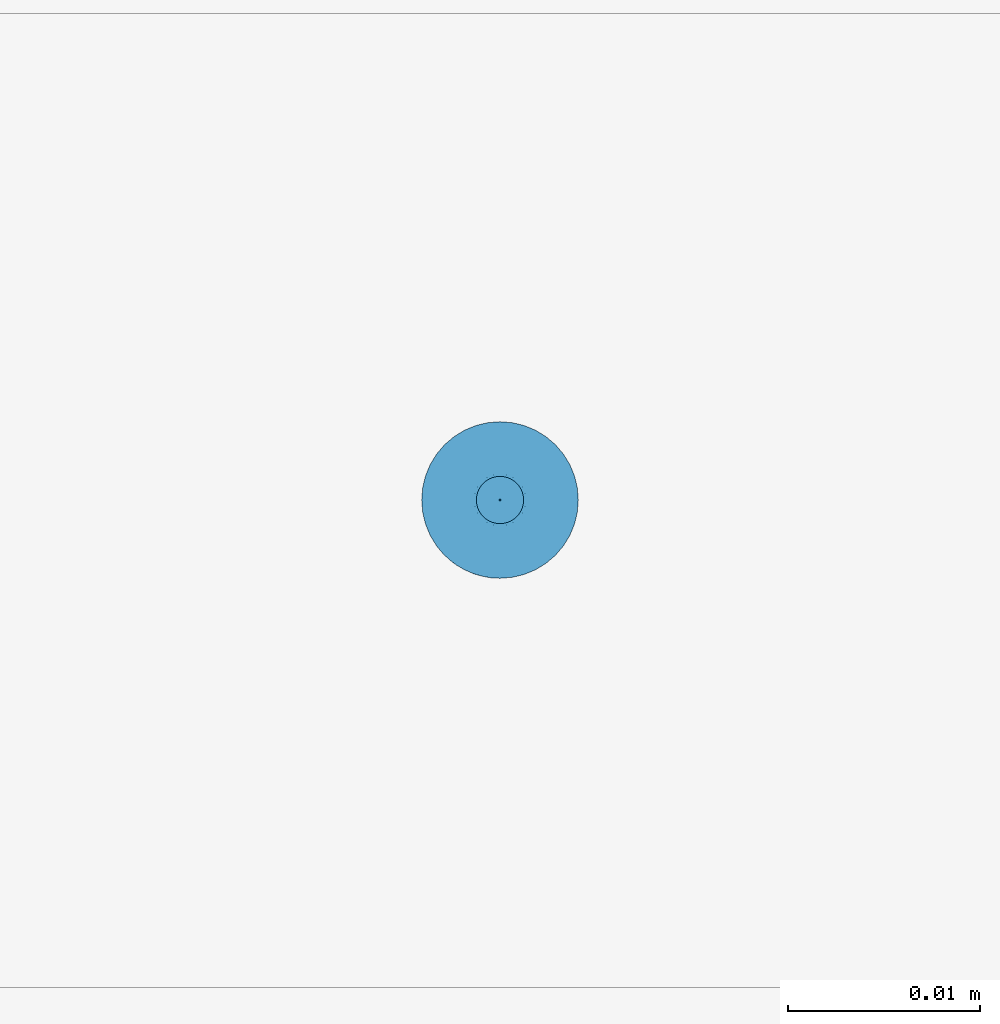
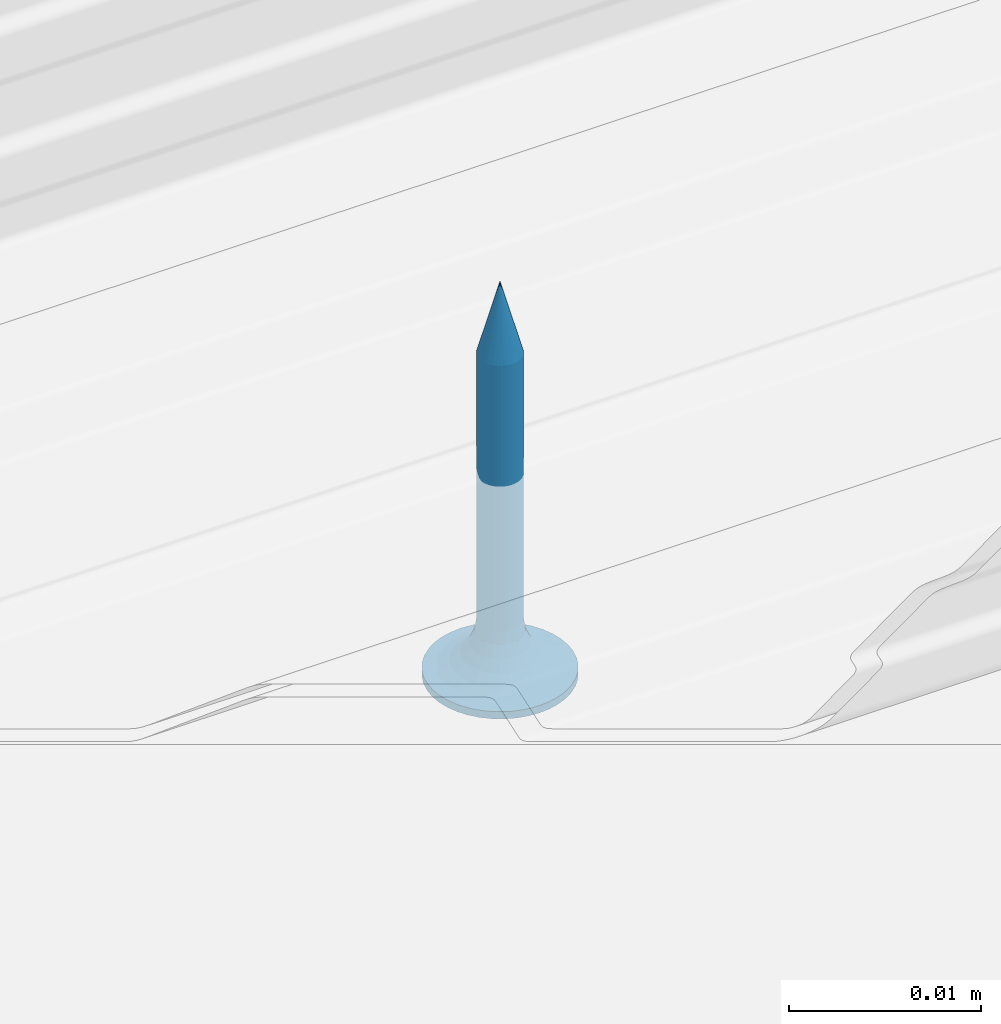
# One storey, part 22 of 34: 1 slab.
"""IFC2X3 building model written with IfcOpenShell, lengths in millimetres."""

from ifc_helpers import new_model, entity, si_unit, converted_unit, direction, frame, origin, origin_with_axes, place, context, project, spatial, faceted_brep, element, save


model = new_model("IFC2X3")

# Units and contexts
model_context = context("Model", 3, precision=1e-05, world=origin(), true_north=direction((0.0, 1.0, 0.0)))
ifc_project = project(units=[si_unit("LENGTHUNIT", "METRE", prefix="MILLI"), si_unit("AREAUNIT", "SQUARE_METRE"), si_unit("VOLUMEUNIT", "CUBIC_METRE"), converted_unit("PLANEANGLEUNIT", "DEGREE", entity("IfcPlaneAngleMeasure", 0.01745), si_unit("PLANEANGLEUNIT", "RADIAN"), dimensions=[0, 0, 0, 0, 0, 0, 0]), si_unit("SOLIDANGLEUNIT", "STERADIAN"), si_unit("MASSUNIT", "GRAM"), si_unit("TIMEUNIT", "SECOND"), si_unit("THERMODYNAMICTEMPERATUREUNIT", "DEGREE_CELSIUS"), si_unit("LUMINOUSINTENSITYUNIT", "LUMEN")], contexts=[model_context])

# Site, building, storey
site_placement = place(None, origin_with_axes())
site = spatial("IfcSite", under=ifc_project, at=site_placement, Name="Default Site", CompositionType="ELEMENT")
building_placement = place(site_placement, origin_with_axes())
building = spatial("IfcBuilding", under=site, at=building_placement, Name="Default Building", CompositionType="ELEMENT")
storey_placement = place(building_placement, origin_with_axes())
storey = spatial("IfcBuildingStorey", under=building, at=storey_placement, Name="Default Building Storey", CompositionType="ELEMENT", Elevation=0.0)

# Slab
slab_placement = place(storey_placement, frame((2984.616074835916, 523.3383773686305, 4371.30616226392), z_axis=(0.0, 1.0, 2.220446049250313e-16), x_axis=(1.0, -1.802054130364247e-31, 8.115730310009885e-16)))
element("IfcSlab", 1, at=slab_placement, inside=storey, Name="Wkręt RIGIPS TN 25", context=model_context, shape_type="Brep", body=[
    faceted_brep([(-136.5890362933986, 3387.475459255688, 554.9298199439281), (-136.4636235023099, 3387.475459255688, 555.0766594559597), (-136.4636235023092, 3370.55807436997, 555.0766594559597), (-136.5890362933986, 3370.55807436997, 554.9298199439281), (-136.9005263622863, 3387.475459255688, 554.7035091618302), (-136.9005263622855, 3370.55807436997, 554.7035091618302), (-137.0789337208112, 3370.55807436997, 554.6296104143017), (-137.078933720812, 3387.475459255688, 554.6296104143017), (-137.2667048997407, 3387.475459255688, 554.5845305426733), (-137.2667048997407, 3370.55807436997, 554.5845305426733), (-137.4592163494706, 3370.55807436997, 554.5693795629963), (-137.4592163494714, 3387.475459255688, 554.5693795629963), (-136.4636235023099, 3387.475459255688, 556.5233405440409), (-136.5890362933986, 3387.475459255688, 556.6701800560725), (-136.5890362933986, 3370.55807436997, 556.6701800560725), (-136.4636235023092, 3370.55807436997, 556.5233405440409), (-138.4548091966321, 3370.55807436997, 556.5233405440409), (-138.3293964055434, 3370.55807436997, 556.6701800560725), (-138.3293964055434, 3387.475459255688, 556.6701800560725), (-138.4548091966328, 3387.475459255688, 556.5233405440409), (-136.7358758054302, 3370.55807436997, 554.8044071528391), (-136.7358758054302, 3387.475459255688, 554.8044071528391), (-138.1825568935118, 3387.475459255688, 556.7955928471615), (-138.1825568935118, 3370.55807436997, 556.7955928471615), (-138.0179063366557, 3370.55807436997, 556.8964908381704), (-138.0179063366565, 3387.475459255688, 556.8964908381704), (-136.3627255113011, 3387.475459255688, 556.3586899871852), (-136.3627255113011, 3370.55807436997, 556.3586899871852), (-136.7358758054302, 3387.475459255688, 556.7955928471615), (-136.7358758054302, 3370.55807436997, 556.7955928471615), (-137.6517277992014, 3387.475459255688, 554.5845305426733), (-137.6517277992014, 3370.55807436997, 554.5845305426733), (-137.83949897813, 3370.55807436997, 554.6296104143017), (-137.8394989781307, 3387.475459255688, 554.6296104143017), (-136.3627255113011, 3387.475459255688, 555.241310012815), (-136.3627255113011, 3370.55807436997, 555.241310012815), (-138.0179063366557, 3370.55807436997, 554.7035091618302), (-138.0179063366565, 3387.475459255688, 554.7035091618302), (-138.6746858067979, 3370.55807436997, 555.6074885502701), (-138.6898367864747, 3370.55807436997, 555.8000000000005), (-138.6898367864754, 3387.475459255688, 555.8000000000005), (-138.6746858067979, 3387.475459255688, 555.6074885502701), (-136.2285959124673, 3387.475459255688, 555.8000000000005), (-136.2437468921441, 3387.475459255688, 555.9925114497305), (-136.2437468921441, 3370.55807436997, 555.9925114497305), (-136.2285959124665, 3370.55807436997, 555.8000000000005), (-138.3293964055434, 3370.55807436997, 554.9298199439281), (-138.4548091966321, 3370.55807436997, 555.0766594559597), (-138.4548091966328, 3387.475459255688, 555.0766594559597), (-138.3293964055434, 3387.475459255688, 554.9298199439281), (-137.83949897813, 3370.55807436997, 556.9703895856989), (-137.8394989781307, 3387.475459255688, 556.9703895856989), (-138.1825568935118, 3370.55807436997, 554.8044071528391), (-138.1825568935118, 3387.475459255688, 554.8044071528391), (-138.5557071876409, 3370.55807436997, 555.241310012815), (-138.6296059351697, 3370.55807436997, 555.4197173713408), (-138.6296059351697, 3387.475459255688, 555.4197173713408), (-138.5557071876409, 3387.475459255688, 555.241310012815), (-136.2888267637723, 3387.475459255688, 555.4197173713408), (-136.2437468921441, 3387.475459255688, 555.6074885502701), (-136.2437468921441, 3370.55807436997, 555.6074885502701), (-136.2888267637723, 3370.55807436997, 555.4197173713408), (-136.2888267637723, 3387.475459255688, 556.1802826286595), (-136.2888267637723, 3370.55807436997, 556.1802826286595), (-137.4592163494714, 3387.475459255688, 557.0306204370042), (-137.4592163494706, 3370.55807436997, 557.0306204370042), (-137.2667048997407, 3370.55807436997, 557.0154694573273), (-137.2667048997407, 3387.475459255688, 557.0154694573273), (-137.0789337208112, 3370.55807436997, 556.9703895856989), (-137.078933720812, 3387.475459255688, 556.9703895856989), (-137.6517277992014, 3387.475459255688, 557.0154694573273), (-137.6517277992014, 3370.55807436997, 557.0154694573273), (-136.9005263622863, 3387.475459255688, 556.8964908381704), (-136.9005263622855, 3370.55807436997, 556.8964908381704), (-138.6296059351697, 3370.55807436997, 556.1802826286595), (-138.5557071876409, 3370.55807436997, 556.3586899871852), (-138.5557071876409, 3387.475459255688, 556.3586899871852), (-138.6296059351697, 3387.475459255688, 556.1802826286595), (-138.6746858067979, 3370.55807436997, 555.9925114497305), (-138.6746858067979, 3387.475459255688, 555.9925114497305), (-141.5377463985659, 3390.556721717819, 555.8000000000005), (-141.5377463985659, 3391.020944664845, 555.8000000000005), (-141.4875329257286, 3391.020944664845, 555.1619773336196), (-141.4875329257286, 3390.556721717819, 555.1619773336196), (-141.338128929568, 3391.020944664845, 554.539664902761), (-141.338128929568, 3390.556721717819, 554.539664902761), (-141.0932132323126, 3391.020944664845, 553.948386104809), (-141.0932132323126, 3390.556721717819, 553.948386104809), (-140.7588164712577, 3391.020944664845, 553.4027001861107), (-140.7588164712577, 3390.556721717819, 553.4027001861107), (-140.3431726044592, 3391.020944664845, 552.9160437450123), (-140.4541727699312, 3390.556721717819, 553.0314907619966), (-140.1080097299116, 3390.556721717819, 552.6986614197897), (-139.8565161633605, 3391.020944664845, 552.5003998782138), (-139.7251262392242, 3390.556721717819, 552.4088262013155), (-139.3108302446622, 3391.020944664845, 552.1660031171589), (-139.3108302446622, 3390.556721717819, 552.1660031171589), (-138.8708651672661, 3390.556721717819, 551.9735584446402), (-138.7195514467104, 3391.020944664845, 551.9210874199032), (-138.4113302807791, 3390.556721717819, 551.8341600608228), (-137.9385961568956, 3390.556721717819, 551.7497404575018), (-138.0972390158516, 3391.020944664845, 551.7716834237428), (-137.4592163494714, 3391.020944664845, 551.7214699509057), (-137.4592163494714, 3390.556721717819, 551.7214699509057), (-136.8211936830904, 3391.020944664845, 551.7716834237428), (-136.8211936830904, 3390.556721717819, 551.7716834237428), (-136.1988812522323, 3391.020944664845, 551.9210874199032), (-136.1988812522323, 3390.556721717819, 551.9210874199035), (-135.6076024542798, 3391.020944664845, 552.1660031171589), (-135.6076024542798, 3390.556721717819, 552.1660031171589), (-135.0619165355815, 3391.020944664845, 552.5003998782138), (-135.0619165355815, 3390.556721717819, 552.5003998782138), (-134.5752600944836, 3391.020944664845, 552.9160437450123), (-134.5752600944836, 3390.556721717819, 552.9160437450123), (-134.1596162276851, 3391.020944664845, 553.4027001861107), (-134.1596162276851, 3390.556721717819, 553.4027001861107), (-133.8252194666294, 3391.020944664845, 553.948386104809), (-133.8252194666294, 3390.556721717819, 553.948386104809), (-133.580303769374, 3391.020944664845, 554.539664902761), (-133.580303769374, 3390.556721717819, 554.539664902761), (-133.4308997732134, 3391.020944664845, 556.438022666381), (-133.4308997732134, 3390.556721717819, 556.438022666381), (-133.3806863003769, 3390.556721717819, 555.8000000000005), (-133.3806863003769, 3391.020944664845, 555.8000000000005), (-133.4308997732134, 3390.556721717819, 555.1619773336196), (-133.4308997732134, 3391.020944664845, 555.1619773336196), (-133.580303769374, 3391.020944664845, 557.0603350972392), (-133.580303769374, 3390.556721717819, 557.0603350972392), (-133.8252194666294, 3391.020944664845, 557.6516138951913), (-133.8252194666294, 3390.556721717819, 557.6516138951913), (-134.1596162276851, 3391.020944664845, 558.1972998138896), (-134.1596162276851, 3390.556721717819, 558.1972998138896), (-134.5752600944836, 3391.020944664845, 558.683956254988), (-134.5752600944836, 3390.556721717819, 558.683956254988), (-135.0619165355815, 3391.020944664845, 559.0996001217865), (-135.0619165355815, 3390.556721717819, 559.0996001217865), (-135.6076024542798, 3391.020944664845, 559.4339968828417), (-135.6076024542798, 3390.556721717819, 559.4339968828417), (-136.1988812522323, 3391.020944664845, 559.6789125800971), (-136.1988812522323, 3390.556721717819, 559.6789125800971), (-136.8211936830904, 3391.020944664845, 559.8283165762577), (-136.8211936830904, 3390.556721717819, 559.8283165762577), (-137.4592163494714, 3391.020944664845, 559.8785300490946), (-137.4592163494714, 3390.556721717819, 559.8785300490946), (-138.0972390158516, 3391.020944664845, 559.8283165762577), (-138.0972390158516, 3390.556721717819, 559.8283165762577), (-138.7195514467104, 3391.020944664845, 559.6789125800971), (-138.7195514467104, 3390.556721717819, 559.6789125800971), (-139.3108302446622, 3391.020944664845, 559.4339968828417), (-139.3108302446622, 3390.556721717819, 559.4339968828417), (-139.8565161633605, 3391.020944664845, 559.0996001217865), (-139.8565161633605, 3390.556721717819, 559.0996001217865), (-140.3431726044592, 3391.020944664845, 558.683956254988), (-140.3431726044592, 3390.556721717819, 558.683956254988), (-140.7588164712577, 3391.020944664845, 558.1972998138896), (-140.7588164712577, 3390.556721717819, 558.1972998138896), (-141.0932132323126, 3391.020944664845, 557.6516138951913), (-141.0932132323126, 3390.556721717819, 557.6516138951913), (-141.338128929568, 3391.020944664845, 557.0603350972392), (-141.338128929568, 3390.556721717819, 557.0603350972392), (-141.4875329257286, 3391.020944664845, 556.438022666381), (-141.4875329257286, 3390.556721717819, 556.438022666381), (-137.8060615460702, 3388.229732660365, 554.5055560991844), (-137.4592163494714, 3388.229732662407, 554.4598930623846), (-138.1292698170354, 3388.229732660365, 554.6394333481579), (-138.4068150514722, 3388.229732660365, 554.8524012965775), (-138.6197830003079, 3388.229732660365, 555.1299465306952), (-138.7536602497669, 3388.229732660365, 555.4531548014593), (-138.7993232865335, 3388.229732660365, 555.7999999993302), (-138.7536602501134, 3388.229732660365, 556.1468451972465), (-138.6197830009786, 3388.229732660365, 556.4700534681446), (-138.4068150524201, 3388.229732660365, 556.7475987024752), (-138.1292698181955, 3388.229732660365, 556.9605666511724), (-137.8060615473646, 3388.229732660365, 557.0944439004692), (-137.4592163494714, 3388.229732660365, 557.1401069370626), (-137.1123711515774, 3388.229732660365, 557.0944439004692), (-136.7891628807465, 3388.229732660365, 556.9605666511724), (-136.5116176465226, 3388.229732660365, 556.7475987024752), (-136.2986496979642, 3388.229732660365, 556.4700534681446), (-136.1647724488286, 3388.229732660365, 556.1468451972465), (-136.1191094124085, 3388.229732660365, 555.7999999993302), (-136.1647724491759, 3388.229732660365, 555.4531548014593), (-136.2986496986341, 3388.229732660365, 555.1299465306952), (-136.5116176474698, 3388.229732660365, 554.8524012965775), (-136.7891628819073, 3388.229732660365, 554.6394333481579), (-137.1123711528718, 3388.229732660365, 554.5055560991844), (-137.4592163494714, 3388.936142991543, 554.1737111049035), (-137.8801308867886, 3388.936142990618, 554.2291255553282), (-138.2723607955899, 3388.936142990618, 554.39159250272), (-138.6091762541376, 3388.936142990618, 554.6500400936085), (-138.8676238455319, 3388.936142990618, 554.9868555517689), (-139.0300907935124, 3388.936142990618, 555.3790854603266), (-139.0855052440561, 3388.936142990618, 555.7999999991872), (-139.0300907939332, 3388.936142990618, 556.2209145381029), (-138.8676238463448, 3388.936142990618, 556.6131444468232), (-138.6091762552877, 3388.936142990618, 556.949959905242), (-138.2723607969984, 3388.936142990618, 557.2084074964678), (-137.8801308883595, 3388.936142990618, 557.3708744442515), (-137.4592163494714, 3388.936142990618, 557.4262888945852), (-137.0383018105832, 3388.936142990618, 557.3708744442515), (-136.6460719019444, 3388.936142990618, 557.2084074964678), (-136.3092564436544, 3388.936142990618, 556.949959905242), (-136.0508088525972, 3388.936142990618, 556.6131444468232), (-135.8883419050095, 3388.936142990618, 556.2209145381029), (-135.8329274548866, 3388.936142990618, 555.7999999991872), (-135.8883419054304, 3388.936142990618, 555.3790854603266), (-136.0508088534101, 3388.936142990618, 554.9868555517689), (-136.3092564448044, 3388.936142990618, 554.6500400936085), (-136.6460719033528, 3388.936142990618, 554.39159250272), (-137.0383018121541, 3388.936142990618, 554.2291255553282), (-137.4592163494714, 3389.553938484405, 553.727343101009), (-137.9956594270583, 3389.553938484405, 553.7979671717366), (-138.4955447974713, 3389.553938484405, 554.0050264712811), (-138.9248060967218, 3389.553938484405, 554.3344102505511), (-139.2541898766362, 3389.553938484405, 554.7636715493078), (-139.46124917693, 3389.553938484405, 555.2635569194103), (-139.5318732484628, 3389.553938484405, 555.7999999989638), (-139.4612491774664, 3389.553938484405, 556.3364430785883), (-139.2541898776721, 3389.553938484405, 556.8363284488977), (-138.9248060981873, 3389.553938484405, 557.2655897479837), (-138.495544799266, 3389.553938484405, 557.5949735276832), (-137.9956594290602, 3389.553938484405, 557.8020328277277), (-137.4592163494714, 3389.553938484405, 557.8726568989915), (-136.9227732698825, 3389.553938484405, 557.8020328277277), (-136.422887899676, 3389.553938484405, 557.5949735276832), (-135.9936266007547, 3389.553938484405, 557.2655897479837), (-135.6642428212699, 3389.553938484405, 556.8363284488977), (-135.4571835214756, 3389.553938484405, 556.3364430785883), (-135.3865594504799, 3389.553938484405, 555.7999999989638), (-135.457183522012, 3389.553938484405, 555.2635569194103), (-135.6642428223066, 3389.553938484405, 554.7636715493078), (-135.9936266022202, 3389.553938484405, 554.3344102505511), (-136.4228879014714, 3389.553938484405, 554.0050264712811), (-136.9227732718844, 3389.553938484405, 553.7979671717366), (-137.4592163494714, 3390.04747944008, 553.1465393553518), (-138.1459824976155, 3390.047479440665, 553.2369538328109), (-138.7859466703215, 3390.047479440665, 553.5020356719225), (-139.3354963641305, 3390.047479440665, 553.9237199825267), (-139.757180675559, 3390.047479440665, 554.4732696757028), (-140.0222625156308, 3390.047479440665, 555.1132338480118), (-140.1126769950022, 3390.047479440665, 555.7999999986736), (-140.0222625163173, 3390.047479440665, 556.4867661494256), (-139.7571806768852, 3390.047479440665, 557.1267303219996), (-139.3354963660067, 3390.047479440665, 557.6762800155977), (-138.7859466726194, 3390.047479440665, 558.0979643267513), (-138.1459825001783, 3390.047479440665, 558.3630461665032), (-137.4592163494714, 3390.047479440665, 558.4534606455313), (-136.7724501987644, 3390.047479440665, 558.3630461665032), (-136.1324860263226, 3390.047479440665, 558.0979643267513), (-135.5829363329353, 3390.047479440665, 557.6762800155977), (-135.1612520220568, 3390.047479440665, 557.1267303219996), (-134.8961701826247, 3390.047479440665, 556.4867661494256), (-134.8057557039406, 3390.047479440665, 555.7999999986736), (-134.8961701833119, 3390.047479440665, 555.1132338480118), (-135.1612520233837, 3390.047479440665, 554.4732696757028), (-135.5829363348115, 3390.047479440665, 553.9237199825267), (-136.1324860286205, 3390.047479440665, 553.5020356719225), (-136.7724502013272, 3390.047479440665, 553.2369538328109), (-137.4592163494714, 3390.388294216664, 552.4648055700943), (-138.3224281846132, 3390.388294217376, 552.5784495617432), (-139.1268135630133, 3390.388294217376, 552.9116368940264), (-139.8175549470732, 3390.388294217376, 553.4416613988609), (-140.3475794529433, 3390.388294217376, 554.1324027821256), (-140.6807667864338, 3390.388294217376, 554.9367881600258), (-140.7944107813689, 3390.388294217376, 555.7999999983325), (-140.6807667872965, 3390.388294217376, 556.6632118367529), (-140.3475794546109, 3390.388294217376, 557.4675972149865), (-139.8175549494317, 3390.388294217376, 558.1583385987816), (-139.1268135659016, 3390.388294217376, 558.6883631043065), (-138.3224281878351, 3390.388294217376, 559.0215504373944), (-137.4592163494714, 3390.388294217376, 559.1351944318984), (-136.5960045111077, 3390.388294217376, 559.0215504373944), (-135.7916191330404, 3390.388294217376, 558.6883631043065), (-135.1008777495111, 3390.388294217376, 558.1583385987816), (-134.5708532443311, 3390.388294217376, 557.4675972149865), (-134.2376659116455, 3390.388294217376, 556.6632118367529), (-134.1240219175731, 3390.388294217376, 555.7999999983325), (-134.2376659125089, 3390.388294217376, 554.9367881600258), (-134.5708532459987, 3390.388294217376, 554.1324027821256), (-135.1008777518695, 3390.388294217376, 553.4416613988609), (-135.7916191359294, 3390.388294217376, 552.9116368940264), (-136.5960045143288, 3390.388294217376, 552.5784495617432), (-137.4592163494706, 3366.021033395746, 555.8000000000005), (-139.9592163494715, 3391.020944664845, 556.3000000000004), (-137.9592163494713, 3391.020944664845, 556.3000000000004), (-139.9592163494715, 3391.020944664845, 555.3000000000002), (-137.9592163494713, 3391.020944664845, 555.3000000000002), (-137.9592163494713, 3391.020944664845, 553.3000000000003), (-136.9592163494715, 3391.020944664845, 553.3000000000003), (-136.9592163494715, 3391.020944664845, 555.3000000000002), (-134.9592163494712, 3391.020944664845, 555.3000000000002), (-134.9592163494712, 3391.020944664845, 556.3000000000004), (-136.9592163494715, 3391.020944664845, 556.3000000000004), (-136.9592163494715, 3391.020944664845, 558.3000000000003), (-137.9592163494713, 3391.020944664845, 558.3000000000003), (-136.9592163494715, 3390.128974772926, 556.3000000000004), (-134.9592163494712, 3390.128974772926, 556.3000000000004), (-134.9592163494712, 3390.128974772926, 555.3000000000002), (-136.9592163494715, 3390.128974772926, 555.3000000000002), (-136.9592163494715, 3390.128974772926, 553.3000000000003), (-137.9592163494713, 3390.128974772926, 553.3000000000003), (-137.9592163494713, 3390.128974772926, 555.3000000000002), (-139.9592163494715, 3390.128974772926, 555.3000000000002), (-139.9592163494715, 3390.128974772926, 556.3000000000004), (-137.9592163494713, 3390.128974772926, 556.3000000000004), (-137.9592163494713, 3390.128974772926, 558.3000000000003), (-136.9592163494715, 3390.128974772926, 558.3000000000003)], [[[0, 1, 2, 3]], [[4, 5, 6, 7]], [[8, 9, 10, 11]], [[12, 13, 14, 15]], [[16, 17, 18, 19]], [[0, 3, 20, 21]], [[22, 23, 24, 25]], [[26, 12, 15, 27]], [[28, 29, 14, 13]], [[30, 31, 32, 33]], [[1, 34, 35, 2]], [[18, 17, 23, 22]], [[7, 6, 9, 8]], [[33, 32, 36, 37]], [[38, 39, 40, 41]], [[42, 43, 44, 45]], [[46, 47, 48, 49]], [[25, 24, 50, 51]], [[37, 36, 52, 53]], [[54, 55, 56, 57]], [[53, 52, 46, 49]], [[47, 54, 57, 48]], [[58, 59, 60, 61]], [[59, 42, 45, 60]], [[43, 62, 63, 44]], [[64, 65, 66, 67]], [[67, 66, 68, 69]], [[55, 38, 41, 56]], [[70, 71, 65, 64]], [[72, 73, 29, 28]], [[74, 75, 76, 77]], [[69, 68, 73, 72]], [[39, 78, 79, 40]], [[75, 16, 19, 76]], [[62, 26, 27, 63]], [[11, 10, 31, 30]], [[21, 20, 5, 4]], [[34, 58, 61, 35]], [[51, 50, 71, 70]], [[78, 74, 77, 79]], [[80, 81, 82, 83]], [[84, 85, 83, 82]], [[86, 87, 85, 84]], [[87, 86, 88, 89]], [[88, 90, 89]], [[90, 91, 89]], [[92, 91, 93]], [[91, 90, 93]], [[93, 94, 92]], [[93, 95, 94]], [[95, 96, 94]], [[97, 96, 98]], [[96, 95, 98]], [[98, 99, 97]], [[100, 99, 101]], [[99, 98, 101]], [[101, 102, 100]], [[102, 103, 100]], [[103, 102, 104, 105]], [[106, 107, 105, 104]], [[108, 109, 107, 106]], [[109, 108, 110, 111]], [[112, 113, 111, 110]], [[113, 112, 114, 115]], [[116, 117, 115, 114]], [[118, 119, 117, 116]], [[120, 121, 122, 123]], [[123, 122, 124, 125]], [[119, 118, 125, 124]], [[126, 127, 121, 120]], [[128, 129, 127, 126]], [[129, 128, 130, 131]], [[132, 133, 131, 130]], [[133, 132, 134, 135]], [[136, 137, 135, 134]], [[138, 139, 137, 136]], [[139, 138, 140, 141]], [[142, 143, 141, 140]], [[143, 142, 144, 145]], [[146, 147, 145, 144]], [[148, 149, 147, 146]], [[149, 148, 150, 151]], [[152, 153, 151, 150]], [[153, 152, 154, 155]], [[156, 157, 155, 154]], [[158, 159, 157, 156]], [[159, 158, 160, 161]], [[81, 80, 161, 160]], [[162, 11, 30]], [[162, 163, 11]], [[30, 33, 162]], [[162, 33, 164]], [[37, 164, 33]], [[164, 37, 53]], [[53, 165, 164]], [[53, 49, 165]], [[166, 49, 48]], [[166, 165, 49]], [[48, 57, 166]], [[166, 57, 167]], [[56, 167, 57]], [[167, 56, 41]], [[41, 168, 167]], [[41, 40, 168]], [[169, 40, 79]], [[169, 168, 40]], [[79, 77, 169]], [[169, 77, 170]], [[76, 170, 77]], [[170, 76, 19]], [[19, 171, 170]], [[19, 18, 171]], [[172, 18, 22]], [[172, 171, 18]], [[22, 25, 172]], [[172, 25, 173]], [[51, 173, 25]], [[173, 51, 70]], [[70, 174, 173]], [[70, 64, 174]], [[175, 64, 67]], [[175, 174, 64]], [[67, 69, 175]], [[175, 69, 176]], [[72, 176, 69]], [[176, 72, 28]], [[28, 177, 176]], [[28, 13, 177]], [[178, 13, 12]], [[178, 177, 13]], [[12, 26, 178]], [[178, 26, 179]], [[62, 179, 26]], [[179, 62, 43]], [[43, 180, 179]], [[43, 42, 180]], [[181, 42, 59]], [[181, 180, 42]], [[59, 58, 181]], [[181, 58, 182]], [[34, 182, 58]], [[182, 34, 1]], [[1, 183, 182]], [[1, 0, 183]], [[184, 0, 21]], [[184, 183, 0]], [[21, 4, 184]], [[184, 4, 185]], [[7, 185, 4]], [[185, 7, 8]], [[8, 163, 185]], [[8, 11, 163]], [[186, 163, 187]], [[162, 187, 163]], [[164, 188, 187, 162]], [[165, 189, 188, 164]], [[166, 190, 189, 165]], [[167, 191, 190, 166]], [[168, 192, 191, 167]], [[169, 193, 192, 168]], [[170, 194, 193, 169]], [[171, 195, 194, 170]], [[172, 196, 195, 171]], [[173, 197, 196, 172]], [[174, 198, 197, 173]], [[175, 199, 198, 174]], [[176, 200, 199, 175]], [[177, 201, 200, 176]], [[178, 202, 201, 177]], [[179, 203, 202, 178]], [[180, 204, 203, 179]], [[181, 205, 204, 180]], [[182, 206, 205, 181]], [[183, 207, 206, 182]], [[184, 208, 207, 183]], [[185, 209, 208, 184]], [[185, 163, 209]], [[186, 209, 163]], [[210, 186, 211]], [[187, 211, 186]], [[188, 212, 211, 187]], [[189, 213, 212, 188]], [[190, 214, 213, 189]], [[191, 215, 214, 190]], [[192, 216, 215, 191]], [[193, 217, 216, 192]], [[194, 218, 217, 193]], [[195, 219, 218, 194]], [[196, 220, 219, 195]], [[197, 221, 220, 196]], [[198, 222, 221, 197]], [[199, 223, 222, 198]], [[200, 224, 223, 199]], [[201, 225, 224, 200]], [[202, 226, 225, 201]], [[203, 227, 226, 202]], [[204, 228, 227, 203]], [[205, 229, 228, 204]], [[206, 230, 229, 205]], [[207, 231, 230, 206]], [[208, 232, 231, 207]], [[209, 233, 232, 208]], [[209, 186, 233]], [[210, 233, 186]], [[234, 210, 235]], [[211, 235, 210]], [[212, 236, 235, 211]], [[213, 237, 236, 212]], [[214, 238, 237, 213]], [[215, 239, 238, 214]], [[216, 240, 239, 215]], [[217, 241, 240, 216]], [[218, 242, 241, 217]], [[219, 243, 242, 218]], [[220, 244, 243, 219]], [[221, 245, 244, 220]], [[222, 246, 245, 221]], [[223, 247, 246, 222]], [[224, 248, 247, 223]], [[225, 249, 248, 224]], [[226, 250, 249, 225]], [[227, 251, 250, 226]], [[228, 252, 251, 227]], [[229, 253, 252, 228]], [[230, 254, 253, 229]], [[231, 255, 254, 230]], [[232, 256, 255, 231]], [[233, 257, 256, 232]], [[233, 210, 257]], [[234, 257, 210]], [[258, 99, 100]], [[258, 259, 99]], [[100, 103, 258]], [[258, 234, 259]], [[235, 259, 234]], [[259, 96, 97]], [[259, 260, 96]], [[97, 99, 259]], [[236, 260, 259, 235]], [[261, 91, 92]], [[260, 92, 94]], [[260, 261, 92]], [[94, 96, 260]], [[237, 261, 260, 236]], [[262, 87, 89]], [[89, 261, 262]], [[89, 91, 261]], [[238, 262, 261, 237]], [[85, 87, 263]], [[262, 263, 87]], [[239, 263, 262, 238]], [[263, 80, 83]], [[263, 264, 80]], [[83, 85, 263]], [[240, 264, 263, 239]], [[265, 159, 161]], [[161, 264, 265]], [[161, 80, 264]], [[241, 265, 264, 240]], [[265, 266, 157, 159]], [[242, 266, 265, 241]], [[266, 153, 155]], [[266, 267, 153]], [[155, 157, 266]], [[243, 267, 266, 242]], [[268, 149, 151]], [[151, 267, 268]], [[151, 153, 267]], [[244, 268, 267, 243]], [[268, 269, 147, 149]], [[245, 269, 268, 244]], [[269, 143, 145]], [[269, 270, 143]], [[145, 147, 269]], [[246, 270, 269, 245]], [[271, 139, 141]], [[141, 270, 271]], [[141, 143, 270]], [[247, 271, 270, 246]], [[271, 272, 137, 139]], [[248, 272, 271, 247]], [[272, 133, 135]], [[272, 273, 133]], [[135, 137, 272]], [[249, 273, 272, 248]], [[274, 129, 131]], [[131, 273, 274]], [[131, 133, 273]], [[250, 274, 273, 249]], [[274, 275, 127, 129]], [[251, 275, 274, 250]], [[275, 122, 121]], [[275, 276, 122]], [[121, 127, 275]], [[252, 276, 275, 251]], [[277, 119, 124]], [[124, 276, 277]], [[124, 122, 276]], [[253, 277, 276, 252]], [[117, 119, 278]], [[277, 278, 119]], [[254, 278, 277, 253]], [[278, 113, 115]], [[278, 279, 113]], [[115, 117, 278]], [[255, 279, 278, 254]], [[280, 109, 111]], [[111, 279, 280]], [[111, 113, 279]], [[256, 280, 279, 255]], [[107, 109, 281]], [[280, 281, 109]], [[257, 281, 280, 256]], [[257, 234, 281]], [[258, 281, 234]], [[281, 103, 105]], [[281, 258, 103]], [[105, 107, 281]], [[38, 55, 282]], [[282, 39, 38]], [[55, 54, 282]], [[47, 46, 282]], [[282, 54, 47]], [[52, 36, 282]], [[282, 46, 52]], [[36, 32, 282]], [[31, 10, 282]], [[282, 32, 31]], [[9, 6, 282]], [[282, 10, 9]], [[6, 5, 282]], [[20, 3, 282]], [[282, 5, 20]], [[2, 35, 282]], [[282, 3, 2]], [[35, 61, 282]], [[60, 45, 282]], [[282, 61, 60]], [[44, 63, 282]], [[282, 45, 44]], [[63, 27, 282]], [[15, 14, 282]], [[282, 27, 15]], [[29, 73, 282]], [[282, 14, 29]], [[73, 68, 282]], [[66, 65, 282]], [[282, 68, 66]], [[71, 50, 282]], [[282, 65, 71]], [[50, 24, 282]], [[23, 17, 282]], [[282, 24, 23]], [[16, 75, 282]], [[282, 17, 16]], [[75, 74, 282]], [[78, 39, 282]], [[282, 74, 78]], [[283, 156, 154, 284]], [[283, 285, 286, 287, 288, 289, 290, 291, 292, 293, 294, 284, 154, 152, 150, 148, 146, 144, 142, 140, 138, 136, 134, 132, 130, 128, 126, 120, 123, 125, 118, 116, 114, 112, 110, 108, 106, 104, 102, 101, 98, 95, 93, 90, 88, 86, 84, 82, 81, 160, 158, 156]], [[295, 296, 297, 298, 299, 300, 301, 302, 303, 304, 305, 306]], [[297, 290, 289, 298]], [[296, 291, 290, 297]], [[295, 292, 291, 296]], [[306, 293, 292, 295]], [[305, 294, 293, 306]], [[304, 284, 294, 305]], [[303, 283, 284, 304]], [[302, 285, 283, 303]], [[301, 286, 285, 302]], [[300, 287, 286, 301]], [[299, 288, 287, 300]], [[298, 289, 288, 299]]]),
])

save(model, "model.ifc")
